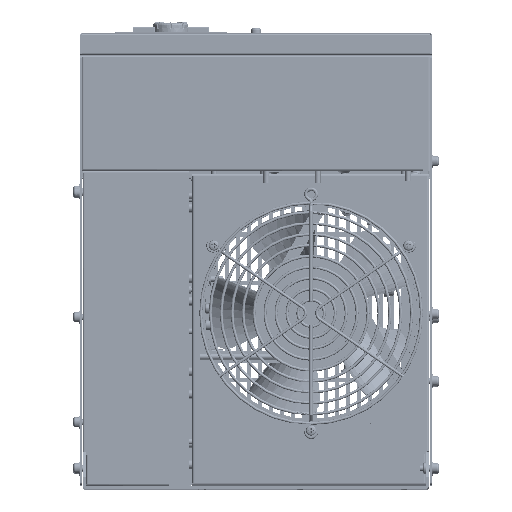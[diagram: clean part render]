
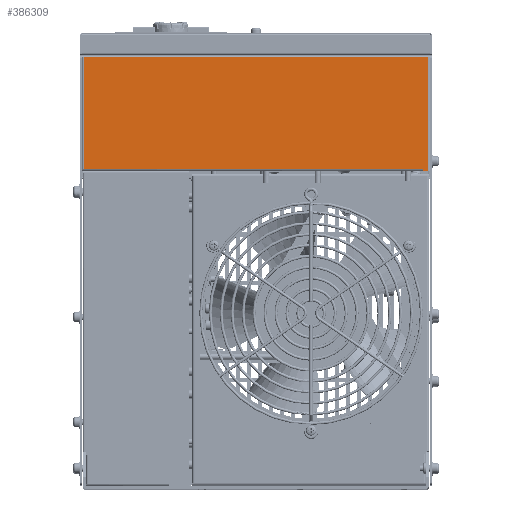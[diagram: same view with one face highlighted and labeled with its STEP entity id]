
A CAD part, top view. The second image highlights one B-rep face of the part: STEP entity #386309.
In plain terms, the highlighted planar face has unit normal (0, 0, 1).
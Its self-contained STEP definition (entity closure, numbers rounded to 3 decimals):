
#42165=FACE_OUTER_BOUND('',#64998,.T.);
#64998=EDGE_LOOP('',(#341037,#341038,#341039,#341040,#341041,#341042));
#103400=LINE('',#683875,#143947);
#103401=LINE('',#683878,#143948);
#103402=LINE('',#683879,#143949);
#103403=LINE('',#683880,#143950);
#103404=LINE('',#683881,#143951);
#103405=LINE('',#683882,#143952);
#143947=VECTOR('',#503845,1.4);
#143948=VECTOR('',#503848,3.9);
#143949=VECTOR('',#503849,77.1);
#143950=VECTOR('',#503850,234.8);
#143951=VECTOR('',#503851,75.7);
#143952=VECTOR('',#503852,230.9);
#187137=VERTEX_POINT('',#683814);
#187140=VERTEX_POINT('',#683821);
#187143=VERTEX_POINT('',#683828);
#187146=VERTEX_POINT('',#683835);
#187155=VERTEX_POINT('',#683873);
#187156=VERTEX_POINT('',#683877);
#239029=EDGE_CURVE('',#187143,#187155,#103400,.T.);
#239030=EDGE_CURVE('',#187155,#187156,#103401,.T.);
#239031=EDGE_CURVE('',#187140,#187156,#103402,.T.);
#239032=EDGE_CURVE('',#187146,#187140,#103403,.T.);
#239033=EDGE_CURVE('',#187137,#187146,#103404,.T.);
#239034=EDGE_CURVE('',#187143,#187137,#103405,.T.);
#341037=ORIENTED_EDGE('',*,*,#239030,.T.);
#341038=ORIENTED_EDGE('',*,*,#239031,.F.);
#341039=ORIENTED_EDGE('',*,*,#239032,.F.);
#341040=ORIENTED_EDGE('',*,*,#239033,.F.);
#341041=ORIENTED_EDGE('',*,*,#239034,.F.);
#341042=ORIENTED_EDGE('',*,*,#239029,.T.);
#366100=PLANE('',#414551);
#386309=ADVANCED_FACE('',(#42165),#366100,.T.);
#414551=AXIS2_PLACEMENT_3D('',#683876,#503846,#503847);
#503845=DIRECTION('',(0.,-1.,0.));
#503846=DIRECTION('center_axis',(0.,0.,1.));
#503847=DIRECTION('ref_axis',(1.,0.,0.));
#503848=DIRECTION('',(1.,0.,0.));
#503849=DIRECTION('',(0.,-1.,0.));
#503850=DIRECTION('',(1.,0.,0.));
#503851=DIRECTION('',(0.,1.,0.));
#503852=DIRECTION('',(-1.,0.,0.));
#683814=CARTESIAN_POINT('',(-117.4,217.9,260.));
#683821=CARTESIAN_POINT('',(117.4,293.6,260.));
#683828=CARTESIAN_POINT('',(113.5,217.9,260.));
#683835=CARTESIAN_POINT('',(-117.4,293.6,260.));
#683873=CARTESIAN_POINT('',(113.5,216.5,260.));
#683875=CARTESIAN_POINT('',(113.5,217.9,260.));
#683876=CARTESIAN_POINT('Origin',(0.,0.,260.));
#683877=CARTESIAN_POINT('',(117.4,216.5,260.));
#683878=CARTESIAN_POINT('',(113.5,216.5,260.));
#683879=CARTESIAN_POINT('',(117.4,293.6,260.));
#683880=CARTESIAN_POINT('',(-117.4,293.6,260.));
#683881=CARTESIAN_POINT('',(-117.4,217.9,260.));
#683882=CARTESIAN_POINT('',(113.5,217.9,260.));
